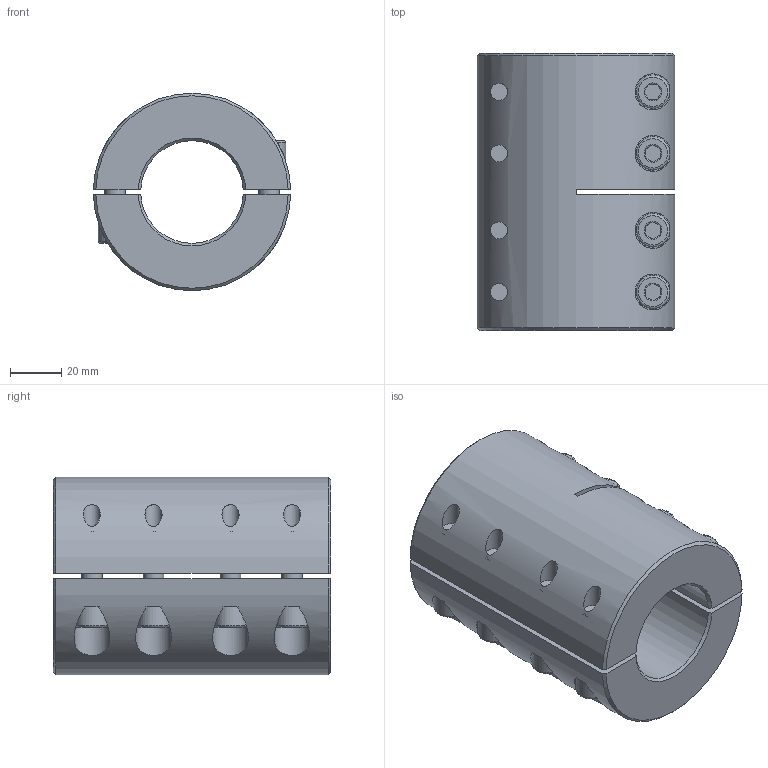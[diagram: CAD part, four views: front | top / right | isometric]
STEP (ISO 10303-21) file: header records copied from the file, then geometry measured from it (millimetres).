
FILE_DESCRIPTION( ( 'Unknown' ), '1' );
FILE_NAME( 'K:/Konstruktion/Fertigungszeichnungen/Schalenkupplung/KBST-G/KBST-G-40.stp', 'Unknown', ( 'Unknown' ), ( 'Unknown' ), 'PSStep 16.0.42', 'Unknown', ' ' );
FILE_SCHEMA( ( 'AUTOMOTIVE_DESIGN { 1 0 10303 214 1 1 1 1 }' ) );
Length unit declared in the file: millimetre
Products named in the file (4): Assem1; ISO EN DIN 4762 M8x30; KBST-G-40
Assembly tree (10 placements, depth 2):
  Assem1
    ISO EN DIN 4762 M8x30  x8
    KBST-G-40
    KBST-G-40
Bounding box: 76.97 x 108 x 77 mm (x, y, z)
Volume: 349550.1 mm3; surface area: 74835.5 mm2
Topology: 10 solids, 10 shells, 260 faces, 492 edges, 292 vertices
Faces by surface type: plane 120, cone 64, cylinder 60, torus 16
Full cylindrical faces by diameter (mm): 6.647 x8, 7 x8, 8 x16, 8.5 x8, 13 x8
Entity records: 4274 total; most frequent: CARTESIAN_POINT 1640, DIRECTION 390, ORIENTED_EDGE 326, AXIS2_PLACEMENT_3D 169, EDGE_CURVE 163, EDGE_LOOP 152, VERTEX_POINT 119, FACE_OUTER_BOUND 107
